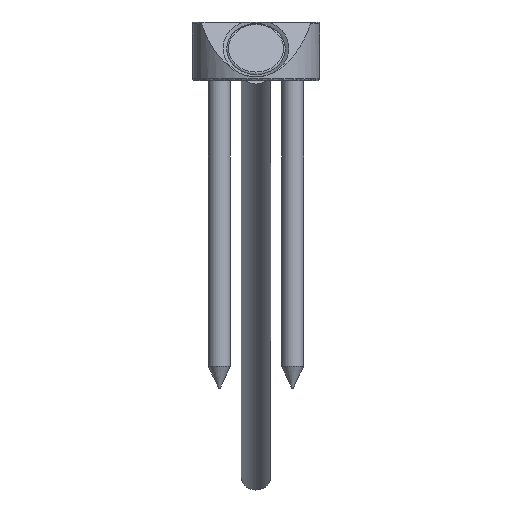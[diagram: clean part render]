
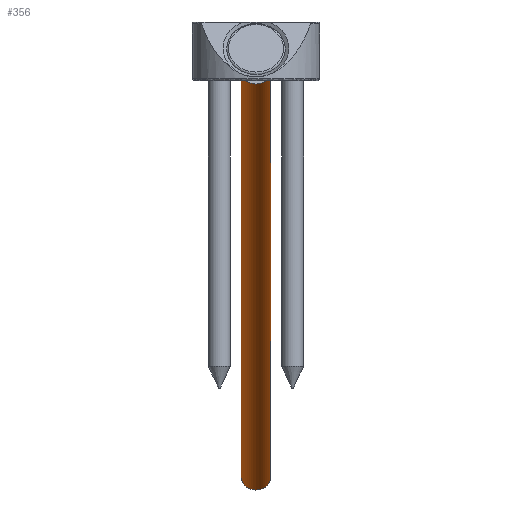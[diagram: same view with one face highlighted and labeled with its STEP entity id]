
A CAD part, front view. The second image highlights one B-rep face of the part: STEP entity #356.
In plain terms, the highlighted cylindrical face has radius 4 mm (diameter 8 mm), a full revolution.
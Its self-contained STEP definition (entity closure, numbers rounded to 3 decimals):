
#60=CYLINDRICAL_SURFACE('',#443,4.);
#131=ORIENTED_EDGE('',*,*,#165,.T.);
#132=ORIENTED_EDGE('',*,*,#164,.F.);
#164=EDGE_CURVE('',#193,#193,#219,.T.);
#165=EDGE_CURVE('',#194,#194,#220,.T.);
#193=VERTEX_POINT('',#666);
#194=VERTEX_POINT('',#669);
#219=CIRCLE('',#442,4.);
#220=CIRCLE('',#444,4.);
#269=EDGE_LOOP('',(#131));
#270=EDGE_LOOP('',(#132));
#320=FACE_BOUND('',#269,.T.);
#321=FACE_BOUND('',#270,.T.);
#356=ADVANCED_FACE('',(#320,#321),#60,.T.);
#442=AXIS2_PLACEMENT_3D('',#665,#557,#558);
#443=AXIS2_PLACEMENT_3D('',#667,#559,#560);
#444=AXIS2_PLACEMENT_3D('',#668,#561,#562);
#557=DIRECTION('',(0.,0.,1.));
#558=DIRECTION('',(1.,0.,0.));
#559=DIRECTION('',(0.,0.,1.));
#560=DIRECTION('',(1.,0.,0.));
#561=DIRECTION('',(0.,0.,1.));
#562=DIRECTION('',(1.,0.,0.));
#665=CARTESIAN_POINT('',(0.,0.,36.591));
#666=CARTESIAN_POINT('',(4.,0.,36.591));
#667=CARTESIAN_POINT('',(0.,0.,49.205));
#668=CARTESIAN_POINT('',(0.,0.,-185.052));
#669=CARTESIAN_POINT('',(4.,0.,-185.052));
